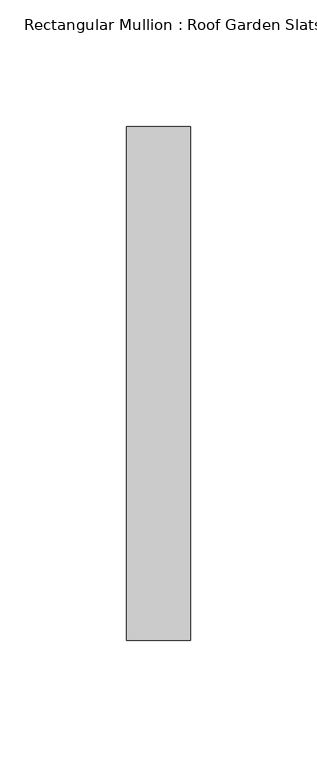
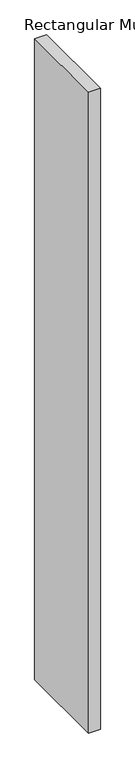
"""IFC4 building model written with IfcOpenShell, lengths in millimetres: member geometry, Rectangular Mullion : Roof Garden Slats."""

import ifcopenshell
import ifcopenshell.guid

model = None  # the IFC model being written
_history = None  # IfcOwnerHistory: only IFC2X3 demands one
_inside = {}  # id of a spatial element -> (the spatial element, [elements in it])
_under = {}  # id of a project, library or spatial element -> (it, [spatial elements below it])
_declared = {}  # id of a project -> (the project, [libraries it declares])
_typed = {}  # id of a type object -> (the type object, [elements of that type])
_made_of = {}  # id of a material, layer set ... -> (it, [elements and type objects made of it])


def new_model(schema):
    """Start an empty IFC model of exactly this schema.

    Asked for "IFC4X3", IfcOpenShell would pick the latest addendum, in which some entities
    have other attributes; the version numbers below select the first issue.
    IFC2X3 requires an IfcOwnerHistory on every rooted entity: one is made here for all.
    """
    global model, _history
    if schema == "IFC4X3":
        model = ifcopenshell.file(schema_version=(4, 3, 0, 0))
    else:
        model = ifcopenshell.file(schema=schema)
    _inside.clear()
    _under.clear()
    _declared.clear()
    _typed.clear()
    _made_of.clear()
    _history = None
    if model.schema == "IFC2X3":
        org = make("IfcOrganization", Name="unknown")
        user = make(
            "IfcPersonAndOrganization",
            ThePerson=make("IfcPerson", FamilyName="unknown"),
            TheOrganization=org,
        )
        app = make(
            "IfcApplication",
            ApplicationDeveloper=org,
            Version="unknown",
            ApplicationFullName="unknown",
            ApplicationIdentifier="unknown",
        )
        _history = make(
            "IfcOwnerHistory",
            OwningUser=user,
            OwningApplication=app,
            ChangeAction="ADDED",
            CreationDate=0,
        )
    return model


def make(cls, **values):
    """One entity of the class cls with the attributes given. An attribute that is None is left unset."""
    return model.create_entity(
        cls, **{name: value for name, value in values.items() if value is not None}
    )


def rooted(cls, **values):
    """An entity with a GlobalId (a new one), such as an element, a storey or a relation."""
    return make(cls, GlobalId=ifcopenshell.guid.new(), OwnerHistory=_history, **values)


def si_unit(unit_type, name, prefix=None):
    """IfcSIUnit, for example si_unit("LENGTHUNIT", "METRE", prefix="MILLI")."""
    return make("IfcSIUnit", UnitType=unit_type, Prefix=prefix, Name=name)


def assignment(units):
    """IfcUnitAssignment: the units of a project."""
    return None if units is None else make("IfcUnitAssignment", Units=units)


def point(xyz):
    """IfcCartesianPoint."""
    return None if xyz is None else make("IfcCartesianPoint", Coordinates=xyz)


def direction(xyz):
    """IfcDirection."""
    return None if xyz is None else make("IfcDirection", DirectionRatios=xyz)


def frame(location, z_axis=None, x_axis=None):
    """IfcAxis2Placement3D, a coordinate frame: its origin and axes. An axis left out is left unset."""
    return make(
        "IfcAxis2Placement3D",
        Location=point(location),
        Axis=direction(z_axis),
        RefDirection=direction(x_axis),
    )


def origin():
    """The frame at (0, 0, 0) with its axes left unset."""
    return frame((0.0, 0.0, 0.0))


def place(relative_to, where):
    """IfcLocalPlacement: puts the frame where relative to a parent placement (None: the world)."""
    return make(
        "IfcLocalPlacement", PlacementRelTo=relative_to, RelativePlacement=where
    )


def context(
    kind, dimensions, precision=None, world=None, true_north=None, identifier=None
):
    """IfcGeometricRepresentationContext, for example the 3D "Model" context."""
    return make(
        "IfcGeometricRepresentationContext",
        ContextIdentifier=identifier,
        ContextType=kind,
        CoordinateSpaceDimension=dimensions,
        Precision=precision,
        WorldCoordinateSystem=world,
        TrueNorth=true_north,
    )


def project(units=None, contexts=None):
    """IfcProject with its units and contexts."""
    return rooted(
        "IfcProject",
        Name="project",
        RepresentationContexts=contexts,
        UnitsInContext=assignment(units),
    )


def spatial(cls, under=None, at=None, **own):
    """A site, building, storey or space (cls), placed at a placement, below another one or the project."""
    s = rooted(cls, ObjectPlacement=at, **own)
    if under is not None:
        _under.setdefault(under.id(), (under, []))[1].append(s)
    return s


def polyline(points):
    """IfcPolyline through the points."""
    return make("IfcPolyline", Points=[point(p) for p in points])


def outline(outer, holes=None, kind="AREA"):
    """IfcArbitraryClosedProfileDef: a profile drawn as a closed curve; with holes, ...WithVoids."""
    if holes is None:
        return make("IfcArbitraryClosedProfileDef", ProfileType=kind, OuterCurve=outer)
    return make(
        "IfcArbitraryProfileDefWithVoids",
        ProfileType=kind,
        OuterCurve=outer,
        InnerCurves=holes,
    )


def extrude(swept, where, along, depth):
    """IfcExtrudedAreaSolid: the profile swept, set in the frame where, extruded along a direction by depth."""
    return make(
        "IfcExtrudedAreaSolid",
        SweptArea=swept,
        Position=where,
        ExtrudedDirection=direction(along),
        Depth=depth,
    )


def shape(context_of_items, identifier, shape_type, items):
    """IfcShapeRepresentation: the items that make up one representation, for example the "Body"."""
    return make(
        "IfcShapeRepresentation",
        ContextOfItems=context_of_items,
        RepresentationIdentifier=identifier,
        RepresentationType=shape_type,
        Items=items,
    )


def source(mapping_origin, context_of_items, identifier, shape_type, items):
    """IfcRepresentationMap: a shape defined once, which mapped items show again and again."""
    return make(
        "IfcRepresentationMap",
        MappingOrigin=mapping_origin,
        MappedRepresentation=shape(context_of_items, identifier, shape_type, items),
    )


def transform(
    local_origin,
    x_axis=None,
    y_axis=None,
    z_axis=None,
    scale=None,
    scale2=None,
    scale3=None,
    uniform=True,
):
    """IfcCartesianTransformationOperator3D, or its non-uniform kind. x_axis, y_axis, z_axis: its Axis1, 2, 3."""
    if uniform:
        return make(
            "IfcCartesianTransformationOperator3D",
            Axis1=direction(x_axis),
            Axis2=direction(y_axis),
            LocalOrigin=point(local_origin),
            Scale=scale,
            Axis3=direction(z_axis),
        )
    return make(
        "IfcCartesianTransformationOperator3DnonUniform",
        Axis1=direction(x_axis),
        Axis2=direction(y_axis),
        LocalOrigin=point(local_origin),
        Scale=scale,
        Axis3=direction(z_axis),
        Scale2=scale2,
        Scale3=scale3,
    )


def mapped(mapping_source, mapping_target):
    """IfcMappedItem: shows the shape of a source again, moved by a transform."""
    return make(
        "IfcMappedItem", MappingSource=mapping_source, MappingTarget=mapping_target
    )


def made_of(thing, what):
    """Note that an element or type object is made of a material, layer set ...; save() writes the relation."""
    if what is not None:
        _made_of.setdefault(what.id(), (what, []))[1].append(thing)
    return thing


def element(
    cls,
    number,
    at=None,
    inside=None,
    cuts=None,
    type_object=None,
    material=None,
    context=None,
    identifier="Body",
    shape_type=None,
    held_by="IfcProductDefinitionShape",
    body=None,
    shapes=None,
    **own,
):
    """One element of the class cls, such as IfcWall. Its Tag is "e" and its number.

    at: its placement. inside: the storey or other place that contains it. cuts: it is an
    opening in that element (IfcRelVoidsElement). A single representation is given by context,
    identifier, shape_type and body (its items); several are given by shapes. held_by: the class
    of the entity that holds the representations. save() writes the other relations.
    """
    e = rooted(cls, Tag="e%d" % number, ObjectPlacement=at, **own)
    if body is not None:
        shapes = [shape(context, identifier, shape_type, body)]
    if shapes is not None:
        e.Representation = make(held_by, Representations=shapes)
    if inside is not None:
        _inside.setdefault(inside.id(), (inside, []))[1].append(e)
    if cuts is not None:
        rooted(
            "IfcRelVoidsElement", RelatingBuildingElement=cuts, RelatedOpeningElement=e
        )
    if type_object is not None:
        _typed.setdefault(type_object.id(), (type_object, []))[1].append(e)
    return made_of(e, material)


def aggregate(whole, parts):
    """IfcRelAggregates: a whole, such as a stair, and the parts it consists of."""
    return rooted("IfcRelAggregates", RelatingObject=whole, RelatedObjects=parts)


def save(model, path):
    """Write the relations noted so far, then the file.

    IfcRelAggregates (storeys below a building ...), IfcRelContainedInSpatialStructure (elements
    in a storey), IfcRelDefinesByType, IfcRelAssociatesMaterial and IfcRelDeclares: one each for
    every whole, place, type object, material and project.
    """
    for whole, parts in _under.values():
        aggregate(whole, parts)
    for where, things in _inside.values():
        rooted(
            "IfcRelContainedInSpatialStructure",
            RelatedElements=things,
            RelatingStructure=where,
        )
    for kind, things in _typed.values():
        rooted("IfcRelDefinesByType", RelatedObjects=things, RelatingType=kind)
    for what, things in _made_of.values():
        rooted("IfcRelAssociatesMaterial", RelatedObjects=things, RelatingMaterial=what)
    for by, libraries in _declared.values():
        rooted("IfcRelDeclares", RelatingContext=by, RelatedDefinitions=libraries)
    model.write(path)


def rectangular_mullion_roof_garden_slats_7b3a68ba(model_context):
    return source(origin(), model_context, "Body", "SweptSolid", [
        extrude(outline(polyline([(0.0, 63.5), (0.0, -139.7), (-25.4, -139.7), (-25.4, 63.5), (0.0, 63.5)])), frame((0.0, 0.0, -1473.2), z_axis=(0.0, 0.0, 1.0), x_axis=(1.0, 0.0, 0.0)), (0.0, 0.0, 1.0), 1473.2),
    ])


if __name__ == "__main__":
    model = new_model("IFC4")
    model_context = context("Model", 3, world=origin())
    ifc_project = project(units=[si_unit("LENGTHUNIT", "METRE", prefix="MILLI")], contexts=[model_context])
    site = spatial("IfcSite", under=ifc_project)
    building = spatial("IfcBuilding", under=site)
    placement = place(None, origin())
    rectangular_mullion_roof_garden_slats_shape = rectangular_mullion_roof_garden_slats_7b3a68ba(model_context)
    element("IfcMember", 1, ObjectType="Rectangular Mullion : Roof Garden Slats", at=placement, inside=building, context=model_context, shape_type="MappedRepresentation", body=[
        mapped(rectangular_mullion_roof_garden_slats_shape, transform((0.0, 0.0, 0.0), x_axis=(1.0, 0.0, 0.0), y_axis=(0.0, 1.0, 0.0), z_axis=(0.0, 0.0, 1.0))),
    ])
    save(model, "model.ifc")
